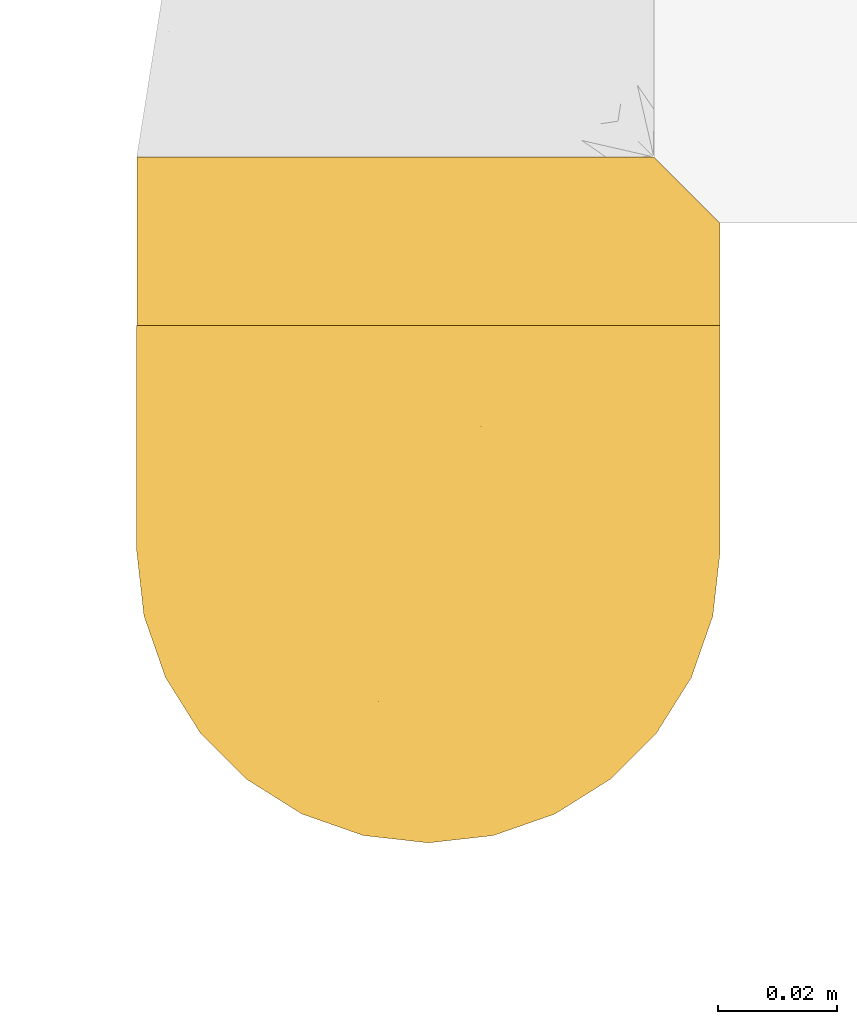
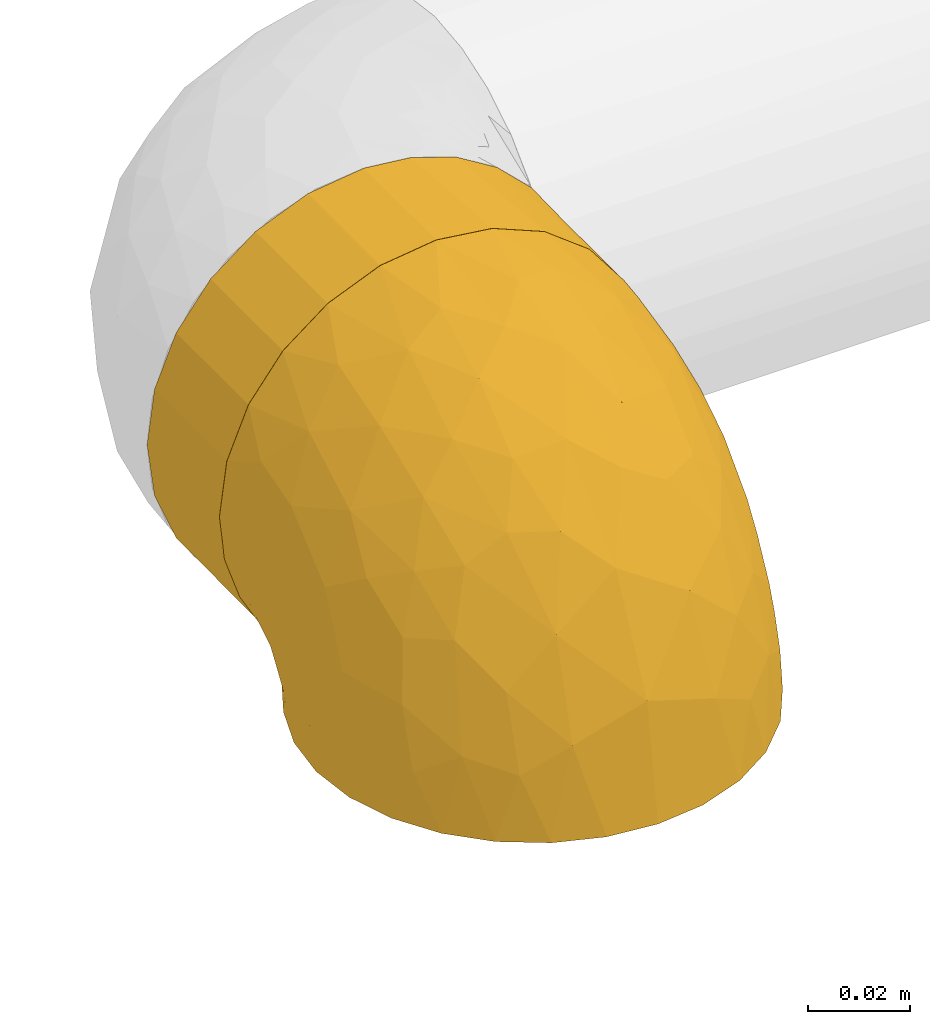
# One storey, part 2 of 6: 2 coverings.
"""IFC2X3 building model written with IfcOpenShell, lengths in millimetres."""

from ifc_helpers import new_model, entity, si_unit, converted_unit, derived_unit, direction, frame, origin, place, context, subcontext, project, spatial, faceted_brep, material, element, save


model = new_model("IFC2X3")

# Units and contexts
model_context = context("Model", 3, precision=0.01, world=origin(), true_north=direction((6.123031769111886e-17, 1.0)))
body_context = subcontext(model_context, "Body", "Model", "MODEL_VIEW")
ifc_project = project(units=[si_unit("LENGTHUNIT", "METRE", prefix="MILLI"), si_unit("AREAUNIT", "SQUARE_METRE"), si_unit("VOLUMEUNIT", "CUBIC_METRE"), converted_unit("PLANEANGLEUNIT", "DEGREE", entity("IfcRatioMeasure", 0.017453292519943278), si_unit("PLANEANGLEUNIT", "RADIAN"), dimensions=[0, 0, 0, 0, 0, 0, 0]), si_unit("MASSUNIT", "GRAM", prefix="KILO"), derived_unit("MASSDENSITYUNIT", [(si_unit("MASSUNIT", "GRAM", prefix="KILO"), 1), (si_unit("LENGTHUNIT", "METRE"), -3)]), derived_unit("IONCONCENTRATIONUNIT", [(si_unit("MASSUNIT", "GRAM", prefix="KILO"), 1), (si_unit("LENGTHUNIT", "METRE"), -3)]), derived_unit("MOMENTOFINERTIAUNIT", [(si_unit("LENGTHUNIT", "METRE"), 4)]), si_unit("TIMEUNIT", "SECOND"), si_unit("FREQUENCYUNIT", "HERTZ"), si_unit("THERMODYNAMICTEMPERATUREUNIT", "DEGREE_CELSIUS"), derived_unit("THERMALTRANSMITTANCEUNIT", [(si_unit("MASSUNIT", "GRAM", prefix="KILO"), 1), (si_unit("THERMODYNAMICTEMPERATUREUNIT", "KELVIN"), -1), (si_unit("TIMEUNIT", "SECOND"), -3)]), derived_unit("THERMALCONDUCTANCEUNIT", [(si_unit("MASSUNIT", "GRAM", prefix="KILO"), 1), (si_unit("THERMODYNAMICTEMPERATUREUNIT", "KELVIN"), -1), (si_unit("TIMEUNIT", "SECOND"), -3), (si_unit("LENGTHUNIT", "METRE"), 1)]), derived_unit("VOLUMETRICFLOWRATEUNIT", [(si_unit("LENGTHUNIT", "METRE"), 3), (si_unit("TIMEUNIT", "SECOND"), -1)]), derived_unit("MASSFLOWRATEUNIT", [(si_unit("MASSUNIT", "GRAM", prefix="KILO"), 1), (si_unit("TIMEUNIT", "SECOND"), -1)]), derived_unit("ROTATIONALFREQUENCYUNIT", [(si_unit("TIMEUNIT", "SECOND"), -1)]), si_unit("ELECTRICCURRENTUNIT", "AMPERE"), si_unit("ELECTRICVOLTAGEUNIT", "VOLT"), si_unit("POWERUNIT", "WATT"), si_unit("FORCEUNIT", "NEWTON", prefix="KILO"), si_unit("ILLUMINANCEUNIT", "LUX"), si_unit("LUMINOUSFLUXUNIT", "LUMEN"), si_unit("LUMINOUSINTENSITYUNIT", "CANDELA"), derived_unit("USERDEFINED", [(si_unit("MASSUNIT", "GRAM", prefix="KILO"), -1), (si_unit("LENGTHUNIT", "METRE"), -2), (si_unit("TIMEUNIT", "SECOND"), 3), (si_unit("LUMINOUSFLUXUNIT", "LUMEN"), 1)]), derived_unit("USERDEFINED", [(si_unit("MASSUNIT", "GRAM", prefix="KILO"), 1), (si_unit("TIMEUNIT", "SECOND"), -3), (si_unit("LENGTHUNIT", "METRE"), 3), (si_unit("ELECTRICCURRENTUNIT", "AMPERE"), -2)]), derived_unit("SOUNDPOWERUNIT", [(si_unit("MASSUNIT", "GRAM", prefix="KILO"), 1), (si_unit("TIMEUNIT", "SECOND"), -3), (si_unit("LENGTHUNIT", "METRE"), 2)]), derived_unit("SOUNDPRESSUREUNIT", [(si_unit("MASSUNIT", "GRAM", prefix="KILO"), 1), (si_unit("LENGTHUNIT", "METRE"), -1), (si_unit("TIMEUNIT", "SECOND"), -2)]), derived_unit("LINEARVELOCITYUNIT", [(si_unit("LENGTHUNIT", "METRE"), 1), (si_unit("TIMEUNIT", "SECOND"), -1)]), si_unit("PRESSUREUNIT", "PASCAL"), derived_unit("USERDEFINED", [(si_unit("MASSUNIT", "GRAM", prefix="KILO"), 1), (si_unit("LENGTHUNIT", "METRE"), -2), (si_unit("TIMEUNIT", "SECOND"), -2)]), derived_unit("LINEARFORCEUNIT", [(si_unit("MASSUNIT", "GRAM", prefix="KILO"), 1), (si_unit("TIMEUNIT", "SECOND"), -2)]), derived_unit("PLANARFORCEUNIT", [(si_unit("MASSUNIT", "GRAM", prefix="KILO"), 1), (si_unit("LENGTHUNIT", "METRE"), -1), (si_unit("TIMEUNIT", "SECOND"), -2)]), derived_unit("SPECIFICHEATCAPACITYUNIT", [(si_unit("THERMODYNAMICTEMPERATUREUNIT", "KELVIN"), -1), (si_unit("LENGTHUNIT", "METRE"), 2), (si_unit("TIMEUNIT", "SECOND"), -2)]), derived_unit("HEATINGVALUEUNIT", [(si_unit("LENGTHUNIT", "METRE"), 2), (si_unit("TIMEUNIT", "SECOND"), -2)]), derived_unit("VAPORPERMEABILITYUNIT", [(si_unit("LENGTHUNIT", "METRE"), -1), (si_unit("TIMEUNIT", "SECOND"), 1)]), derived_unit("DYNAMICVISCOSITYUNIT", [(si_unit("MASSUNIT", "GRAM", prefix="KILO"), 1), (si_unit("TIMEUNIT", "SECOND"), -1), (si_unit("LENGTHUNIT", "METRE"), -1)]), derived_unit("THERMALEXPANSIONCOEFFICIENTUNIT", [(si_unit("THERMODYNAMICTEMPERATUREUNIT", "KELVIN"), -1)]), derived_unit("MODULUSOFELASTICITYUNIT", [(si_unit("MASSUNIT", "GRAM", prefix="KILO"), 1), (si_unit("LENGTHUNIT", "METRE"), -1), (si_unit("TIMEUNIT", "SECOND"), -2)]), derived_unit("ISOTHERMALMOISTURECAPACITYUNIT", [(si_unit("LENGTHUNIT", "METRE"), 3), (si_unit("MASSUNIT", "GRAM", prefix="KILO"), -1)]), derived_unit("MOISTUREDIFFUSIVITYUNIT", [(si_unit("TIMEUNIT", "SECOND"), -1), (si_unit("LENGTHUNIT", "METRE"), 2)])], contexts=[model_context])

# Site, building, storey
site_placement = place(None, origin())
site = spatial("IfcSite", under=ifc_project, at=site_placement, Name="Default", CompositionType="ELEMENT")
building_placement = place(site_placement, origin())
building = spatial("IfcBuilding", under=site, at=building_placement, CompositionType="ELEMENT")
storey_placement = place(building_placement, frame((0.0, 0.0, 3000.0)))
storey = spatial("IfcBuildingStorey", under=building, at=storey_placement, Name="Niveau 1", CompositionType="ELEMENT", Elevation=3000.0)

# Coverings
ifc_material = material(Name="Isolation - Laine minérale")
covering_1_placement = place(storey_placement, frame((-10422.871137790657, 9958.875273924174, 0.7252722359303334)))
element("IfcCovering", 1, at=covering_1_placement, inside=storey, material=ifc_material, Name="Isolation des canalisations:Laine minérale", ObjectType="Isolation des canalisations:Laine minérale", PredefinedType="INSULATION", context=body_context, shape_type="Brep", body=[
    faceted_brep([(6.323164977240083, 1.5952722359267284, -71.75405657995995), (12.012544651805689, 1.595272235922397, -80.9755883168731), (19.584352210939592, 1.5952722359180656, -88.72527223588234), (81.86619226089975, 1.595272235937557, -88.72527223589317), (89.43799982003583, 1.5952722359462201, -80.97558831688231), (95.12737949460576, 1.595272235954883, -71.75405657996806), (98.65694811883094, 1.5952722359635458, -61.510046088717), (99.85527223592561, 1.595272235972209, -50.72527223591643), (98.18120808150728, 1.5952722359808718, -38.00949255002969), (93.27310032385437, 1.5952722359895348, -26.160272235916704), (85.46542839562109, 1.5952722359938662, -15.985116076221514), (75.29027223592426, 1.5952722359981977, -8.17744414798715), (63.44105192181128, 1.5952722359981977, -3.269336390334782), (50.72527223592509, 1.5952722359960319, -1.5952722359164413), (38.0094925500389, 1.5952722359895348, -3.269336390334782), (26.16027223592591, 1.5952722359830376, -8.17744414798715), (15.985116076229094, 1.5952722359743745, -15.985116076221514), (8.177444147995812, 1.5952722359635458, -26.160272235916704), (3.2693363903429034, 1.5952722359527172, -38.00949255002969), (1.5952722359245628, 1.5952722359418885, -50.72527223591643), (2.793596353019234, 1.5952722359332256, -61.51004608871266), (61.51004608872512, 29.97035065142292, -98.65694811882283), (50.72527223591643, 29.970350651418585, -99.85527223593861), (38.00949255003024, 29.97035065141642, -98.18120808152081), (26.160272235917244, 29.97035065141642, -93.27310032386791), (15.98511607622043, 29.970350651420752, -85.46542839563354), (8.17744414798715, 29.970350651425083, -75.29027223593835), (3.26933639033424, 29.970350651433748, -63.441051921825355), (1.5952722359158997, 29.97035065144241, -50.725272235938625), (3.26933639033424, 29.970350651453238, -38.009492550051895), (8.17744414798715, 29.970350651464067, -26.1602722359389), (15.98511607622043, 29.970350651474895, -15.985116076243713), (26.160272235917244, 29.970350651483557, -8.177444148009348), (38.00949255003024, 29.970350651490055, -3.2693363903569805), (50.72527223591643, 29.970350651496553, -1.59527223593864), (61.51004608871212, 29.97035065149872, -2.7935963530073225), (71.75405657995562, 29.97035065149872, -6.323164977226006), (80.97558831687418, 29.970350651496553, -12.01254465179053), (88.72527223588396, 29.970350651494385, -19.584352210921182), (88.72527223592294, 29.970350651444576, -81.8661922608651), (80.97558831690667, 29.97035065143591, -89.43799982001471), (71.75405657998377, 29.970350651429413, -95.12737949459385), (34.19020495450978, 9.859172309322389, -96.98917230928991), (42.33445912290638, 12.00344463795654, -99.13344463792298), (50.725272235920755, 12.725272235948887, -99.85527223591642), (26.531823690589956, 6.3554633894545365, -93.48546338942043), (59.11608534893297, 12.003444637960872, -99.13344463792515), (67.26033951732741, 9.859172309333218, -96.98917230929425), (74.91872078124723, 6.355463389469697, -93.48546338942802), (93.48546338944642, 25.210159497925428, -74.91872078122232), (96.98917230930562, 21.706450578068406, -67.2603395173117), (99.13344463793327, 19.56217824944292, -59.11608534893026), (99.85527223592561, 18.840350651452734, -50.725272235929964), (99.13344463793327, 19.562178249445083, -42.33445912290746), (96.98917230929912, 21.706450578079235, -34.19020495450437), (93.48546338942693, 25.210159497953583, -26.53182369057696)], [[[0, 1, 2, 3, 4, 5, 6, 7, 8, 9, 10, 11, 12, 13, 14, 15, 16, 17, 18, 19, 20]], [[21, 22, 23, 24, 25, 26, 27, 28, 29, 30, 31, 32, 33, 34, 35, 36, 37, 38, 39, 40, 41]], [[20, 28, 27]], [[27, 26, 0]], [[25, 1, 26]], [[19, 28, 20]], [[0, 20, 27]], [[1, 0, 26]], [[25, 2, 1]], [[42, 24, 23]], [[23, 22, 43]], [[44, 43, 22]], [[2, 25, 45]], [[43, 42, 23]], [[45, 24, 42]], [[45, 25, 24]], [[46, 22, 21]], [[21, 41, 47]], [[40, 48, 41]], [[46, 44, 22]], [[48, 47, 41]], [[3, 48, 40]], [[46, 21, 47]], [[40, 39, 3]], [[39, 49, 4]], [[50, 51, 6]], [[49, 50, 5]], [[4, 49, 5]], [[51, 7, 6]], [[6, 5, 50]], [[7, 51, 52]], [[39, 4, 3]], [[53, 54, 8]], [[9, 55, 10]], [[54, 55, 9]], [[52, 53, 7]], [[7, 53, 8]], [[54, 9, 8]], [[55, 38, 10]], [[11, 37, 36]], [[36, 35, 12]], [[34, 13, 35]], [[10, 37, 11]], [[12, 11, 36]], [[13, 12, 35]], [[37, 10, 38]], [[13, 34, 33, 14]], [[14, 33, 32, 15]], [[15, 32, 31, 16]], [[17, 30, 29, 18]], [[18, 29, 28, 19]], [[16, 31, 30, 17]], [[45, 42, 43, 44, 46, 47, 48, 3, 2]], [[38, 55, 54, 53, 52, 51, 50, 49, 39]]]),
])
covering_2_placement = place(storey_placement, frame((-10422.891137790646, 9871.72527392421, -89.59527223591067)))
element("IfcCovering", 2, at=covering_2_placement, inside=storey, material=ifc_material, Name="Isolation des canalisations:Laine minérale", ObjectType="Isolation des canalisations:Laine minérale", PredefinedType="INSULATION", context=body_context, shape_type="Brep", body=[
    faceted_brep([(95.02415814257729, 29.412134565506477, 1.5952722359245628), (89.1663101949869, 20.093252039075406, 1.5952722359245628), (81.38263886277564, 12.31254833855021, 1.5952722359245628), (72.06354573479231, 6.459227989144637, 1.5952722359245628), (61.67593083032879, 2.8261403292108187, 1.5952722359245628), (50.74527223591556, 1.5952722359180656, 1.5952722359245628), (39.80290363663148, 2.8288129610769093, 1.5952722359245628), (29.412134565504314, 6.4663863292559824, 1.5952722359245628), (20.093252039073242, 12.324234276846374, 1.5952722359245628), (12.312548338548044, 20.10790560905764, 1.5952722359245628), (6.459227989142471, 29.42699873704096, 1.5952722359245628), (2.826140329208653, 39.81461364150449, 1.5952722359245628), (1.5952722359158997, 50.74527223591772, 1.5952722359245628), (2.765001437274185, 61.404358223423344, 1.5952722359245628), (6.216868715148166, 71.55257335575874, 1.5952722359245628), (11.785042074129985, 80.70896636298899, 1.5952722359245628), (19.19437336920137, 88.43165280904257, 1.5952722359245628), (21.638642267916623, 88.43165280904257, 1.5952722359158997), (23.415694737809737, 88.43165280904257, 1.5952722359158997), (25.192747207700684, 88.43165280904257, 1.5952722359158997), (26.692340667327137, 88.43165280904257, 1.5952722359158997), (28.191934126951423, 88.43165280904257, 1.5952722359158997), (31.191121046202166, 88.43165280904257, 1.5952722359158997), (34.19030796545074, 88.43165280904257, 1.5952722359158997), (37.18949488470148, 88.43165280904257, 1.5952722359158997), (40.18868180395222, 88.43165280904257, 1.5952722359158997), (41.68827526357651, 88.43165280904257, 1.5952722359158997), (43.18786872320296, 88.43165280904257, 1.5952722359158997), (45.63213762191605, 88.43165280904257, 1.5952722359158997), (48.07640652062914, 88.43165280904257, 1.5952722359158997), (50.5206754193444, 88.43165280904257, 1.5952722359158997), (52.96494431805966, 88.43165280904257, 1.5952722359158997), (55.40921321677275, 88.43165280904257, 1.5952722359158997), (57.85348211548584, 88.43165280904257, 1.5952722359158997), (60.2977510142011, 88.43165280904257, 1.5952722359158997), (62.742019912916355, 88.43165280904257, 1.5952722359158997), (65.18628881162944, 88.43165280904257, 1.5952722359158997), (67.6305577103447, 88.43165280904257, 1.5952722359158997), (70.0748266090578, 88.43165280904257, 1.5952722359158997), (72.51909550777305, 88.43165280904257, 1.5952722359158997), (74.96336440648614, 88.43165280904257, 1.5952722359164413), (77.4076333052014, 88.43165280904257, 1.5952722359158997), (79.85190220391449, 88.43165280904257, 1.5952722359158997), (82.29617110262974, 88.43165280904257, 1.5952722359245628), (89.71827412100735, 80.69235262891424, 1.5952722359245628), (95.28368576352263, 71.53113811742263, 1.5952722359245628), (98.73008326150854, 61.383900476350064, 1.5952722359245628), (99.89527223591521, 50.74527223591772, 1.5952722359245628), (98.66173151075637, 39.802903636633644, 1.5952722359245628), (11.777056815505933, 88.74527223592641, 9.641963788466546), (6.211862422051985, 88.74527223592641, 18.798688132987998), (2.7632985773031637, 88.74527223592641, 28.94385431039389), (1.5952722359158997, 88.74527223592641, 39.59527223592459), (3.270017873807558, 88.74527223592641, 52.31622830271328), (8.18012363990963, 88.74527223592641, 64.17027223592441), (15.990973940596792, 88.74527223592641, 74.34957053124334), (26.170272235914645, 88.74527223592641, 82.16042083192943), (38.02431616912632, 88.74527223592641, 87.07052659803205), (50.74527223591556, 88.74527223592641, 88.74527223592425), (63.46622830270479, 88.74527223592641, 87.07052659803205), (75.3202722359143, 88.74527223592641, 82.16042083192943), (85.49957053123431, 88.74527223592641, 74.34957053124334), (93.31042083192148, 88.74527223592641, 64.17027223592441), (98.22052659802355, 88.74527223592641, 52.31622830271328), (99.89527223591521, 88.74527223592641, 39.59527223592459), (98.72724589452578, 88.74527223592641, 28.94385431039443), (95.27868204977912, 88.74527223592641, 18.798688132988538), (89.71348765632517, 88.74527223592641, 9.641963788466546), (82.29617110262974, 88.74527223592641, 1.9088916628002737), (79.85190220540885, 88.74527223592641, 1.9088916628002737), (78.3523087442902, 88.74527223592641, 1.9088916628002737), (76.38037756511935, 88.74527223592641, 1.9088916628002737), (74.40844638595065, 88.74527223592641, 1.9088916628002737), (72.43651520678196, 88.74527223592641, 1.9088916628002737), (70.46458402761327, 88.74527223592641, 1.9088916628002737), (68.49265284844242, 88.74527223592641, 1.9088916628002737), (66.52072166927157, 88.74527223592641, 1.9088916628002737), (64.54879049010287, 88.74527223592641, 1.9088916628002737), (62.57685931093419, 88.74527223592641, 1.9088916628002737), (60.60492813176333, 88.74527223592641, 1.9088916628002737), (58.632996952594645, 88.74527223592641, 1.9088916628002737), (56.661065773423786, 88.74527223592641, 1.9088916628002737), (54.6891345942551, 88.74527223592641, 1.9088916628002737), (52.71720341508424, 88.74527223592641, 1.9088916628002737), (50.74527223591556, 88.74527223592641, 1.9088916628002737), (48.7733410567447, 88.74527223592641, 1.908891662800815), (46.80140987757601, 88.74527223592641, 1.908891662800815), (44.82947869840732, 88.74527223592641, 1.9088916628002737), (42.85754751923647, 88.74527223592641, 1.9088916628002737), (40.88561634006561, 88.74527223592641, 1.9088916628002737), (38.913685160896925, 88.74527223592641, 1.9088916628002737), (36.94175398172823, 88.74527223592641, 1.9088916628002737), (34.96982280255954, 88.74527223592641, 1.9088916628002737), (31.97063588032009, 88.74527223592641, 1.9088916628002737), (28.971448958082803, 88.74527223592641, 1.9088916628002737), (26.5271800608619, 88.74527223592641, 1.9088916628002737), (24.082911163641, 88.74527223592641, 1.9088916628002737), (21.638642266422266, 88.74527223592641, 1.9088916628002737), (19.19437336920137, 88.74527223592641, 1.908891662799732), (53.75333970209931, 88.53090125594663, 1.8241875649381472), (51.832765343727, 88.52210831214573, 1.8156242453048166), (61.47290163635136, 88.52122178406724, 1.8147227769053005), (63.562825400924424, 88.52777998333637, 1.821224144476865), (48.00102702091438, 88.54092532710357, 1.8331787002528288), (77.2499939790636, 88.53506454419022, 1.828016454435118), (80.69913834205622, 88.49130573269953, 1.7792781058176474), (42.43807145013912, 88.51810292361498, 1.8114926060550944), (22.860776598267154, 88.52350981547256, 1.8170346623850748), (24.70021643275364, 88.52548149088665, 1.8189889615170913), (71.3700895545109, 88.51653277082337, 1.809830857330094), (73.40383885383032, 88.52674320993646, 1.820221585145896), (44.410002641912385, 88.50469006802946, 1.796462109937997), (37.92771907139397, 88.52964682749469, 1.8230063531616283), (39.81308540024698, 88.53317608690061, 1.8262968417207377), (35.95578792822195, 88.51585328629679, 1.8091041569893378), (49.75930651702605, 88.52914218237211, 1.8225274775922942), (21.02757498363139, 88.52591800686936, 1.8194169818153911), (55.67510065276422, 88.53664906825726, 1.8294378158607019), (67.50668767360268, 88.53747885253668, 1.8301744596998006), (65.61454699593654, 88.53273195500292, 1.8258883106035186), (34.104580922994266, 88.53426299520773, 1.8272900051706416), (57.55217518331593, 88.53370000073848, 1.8267767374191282), (79.10210557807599, 88.52350981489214, 1.8170346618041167), (75.39441218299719, 88.53493173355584, 1.8278964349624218), (82.29617110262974, 88.52350981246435, 1.8170346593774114), (82.29617110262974, 88.4948797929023, 1.747915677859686), (82.29617110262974, 88.46624977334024, 1.6787966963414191), (19.19437336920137, 88.52350981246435, 1.8170346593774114), (19.19437336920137, 88.59262879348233, 1.8456646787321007), (19.19437336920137, 88.66174777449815, 1.8742946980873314), (32.212157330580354, 88.5100064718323, 1.8026539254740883), (69.4355922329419, 88.53042484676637, 1.823740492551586), (46.248287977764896, 88.52246762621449, 1.81598755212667), (59.49061335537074, 88.52470424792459, 1.8182226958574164), (29.41925201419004, 88.50579329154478, 1.7977740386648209), (27.44213716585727, 88.5274414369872, 1.820897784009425), (82.29617110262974, 88.66174777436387, 1.8742946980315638), (82.29617110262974, 88.5926287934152, 1.845664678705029), (19.19437336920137, 88.46624977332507, 1.6787966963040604), (19.19437336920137, 88.49487979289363, 1.7479156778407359), (4.210283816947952, 85.22080157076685, 23.495219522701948), (8.744179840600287, 85.93611072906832, 13.747756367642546), (4.210283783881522, 81.07807843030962, 22.409779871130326), (9.955583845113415, 83.13289242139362, 10.562522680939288), (1.5952722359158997, 79.24527223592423, 37.049754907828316), (1.5952722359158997, 81.28890223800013, 37.59734391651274), (1.5952722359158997, 55.83630689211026, 20.595272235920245), (2.93549782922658, 66.39553001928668, 16.020149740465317), (4.213452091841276, 67.9404040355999, 9.261677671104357), (1.5952722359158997, 69.74527223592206, 34.50423757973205), (9.405305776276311, 80.67378389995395, 9.667897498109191), (9.963487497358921, 79.78892094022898, 7.202912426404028), (2.9356418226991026, 74.32109358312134, 23.94474674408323), (4.213452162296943, 66.85470593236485, 5.119390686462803), (8.750654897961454, 76.603363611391, 4.402893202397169), (5.690627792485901, 79.64911936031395, 17.541506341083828), (1.5952722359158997, 52.743200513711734, 9.051642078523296), (1.5952722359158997, 53.29078956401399, 11.095272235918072), (4.482619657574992, 73.61168493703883, 16.72885944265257), (1.5952722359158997, 62.790789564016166, 27.549754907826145), (5.766057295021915, 73.87988529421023, 12.071559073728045), (2.6117250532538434, 75.32913676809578, 47.62395095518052), (2.657531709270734, 65.9107418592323, 44.00144112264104), (11.131578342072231, 53.84761415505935, 58.899698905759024), (20.824647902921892, 59.13651173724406, 72.66771487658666), (11.7519547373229, 71.16612245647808, 67.20155656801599), (5.336592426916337, 67.0054527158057, 54.07984229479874), (5.33659286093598, 78.8805128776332, 57.54110754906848), (50.74527223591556, 37.51978749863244, 72.10110329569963), (50.74527223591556, 61.81444117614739, 84.4798476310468), (40.339739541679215, 53.875201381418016, 80.24801351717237), (9.12424327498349, 25.784943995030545, 13.851436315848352), (4.351045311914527, 36.24418276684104, 15.165285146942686), (32.64695426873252, 29.562882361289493, 60.77765845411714), (23.768909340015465, 30.770681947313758, 55.385836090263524), (35.61531809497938, 15.292222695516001, 43.89737524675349), (41.696133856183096, 71.31385843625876, 86.12648113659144), (30.50981773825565, 47.24102741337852, 73.23168363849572), (21.748430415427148, 43.50389303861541, 64.7473857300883), (20.824647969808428, 75.28985257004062, 77.40373146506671), (31.9363827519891, 67.10273039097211, 82.14716981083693), (15.984346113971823, 37.09920094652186, 52.82911549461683), (9.509703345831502, 44.51517687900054, 48.878965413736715), (11.405769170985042, 33.70477633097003, 40.607220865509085), (3.723532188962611, 44.05169469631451, 28.76995319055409), (9.124242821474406, 30.044081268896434, 27.448445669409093), (15.984347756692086, 18.312338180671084, 19.800365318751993), (50.74527223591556, 5.8606968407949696, 28.52610329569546), (34.50535109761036, 7.041406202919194, 22.71562192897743), (18.53593481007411, 25.61446965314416, 42.31748570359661), (24.588194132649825, 15.886915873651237, 33.6838277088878), (24.58819389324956, 10.600409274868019, 16.806973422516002), (39.07585882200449, 38.50378416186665, 71.0785805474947), (42.346184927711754, 25.345180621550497, 60.332491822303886), (2.563252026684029, 53.163504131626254, 33.37332146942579), (50.74527223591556, 18.239441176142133, 52.82075697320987), (4.72244931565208, 52.69469876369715, 43.46542968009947), (69.55416102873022, 58.17589226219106, 79.2001746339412), (59.5851078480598, 71.70091272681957, 86.24488809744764), (59.865425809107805, 54.57433327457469, 80.83807017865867), (66.13789702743, 42.49805076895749, 72.52816019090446), (69.55416221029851, 75.06235489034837, 83.87397883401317), (85.49332197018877, 24.5251412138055, 35.798660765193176), (78.98858976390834, 25.786342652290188, 48.02046276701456), (76.88743080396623, 15.878231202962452, 33.68736739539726), (85.49294527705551, 37.08979212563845, 52.83844921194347), (78.28666517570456, 35.71336208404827, 59.75598123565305), (97.13479117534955, 36.23150879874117, 15.170016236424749), (98.95303587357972, 70.53804152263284, 45.55141709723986), (99.89527223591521, 69.74527223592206, 34.50423757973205), (99.89527223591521, 79.24527223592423, 37.049754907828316), (66.97173870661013, 7.0362994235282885, 22.71467774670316), (80.665896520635, 69.24086116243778, 76.07714087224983), (92.35692696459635, 30.03051209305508, 27.45465165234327), (92.35692651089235, 25.770245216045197, 13.854008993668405), (89.73858944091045, 76.87540408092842, 68.47065883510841), (96.15395178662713, 74.00473445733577, 56.45843349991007), (79.62483877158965, 48.41047025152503, 68.08854506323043), (89.7385902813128, 62.62553049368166, 64.29272071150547), (59.508159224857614, 31.220776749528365, 66.01125638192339), (68.83452868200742, 29.560345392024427, 60.78019542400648), (99.01263503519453, 79.82666983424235, 48.01911236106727), (76.88743104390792, 10.591274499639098, 16.809109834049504), (65.85652255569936, 15.287247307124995, 43.900853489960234), (85.49294363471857, 18.299506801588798, 19.803681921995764), (97.76388503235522, 44.04987097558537, 28.786726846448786), (99.89527223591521, 55.83630689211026, 20.595272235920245), (98.78930951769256, 54.23536248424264, 35.485066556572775), (99.89527223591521, 62.790789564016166, 27.549754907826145), (99.89527223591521, 52.74320051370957, 9.051642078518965), (99.89527223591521, 53.29078956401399, 11.095272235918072), (91.50386042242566, 48.41211537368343, 53.16291239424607), (96.4268312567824, 64.14304703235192, 52.05308452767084), (93.14991945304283, 40.10640265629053, 41.401037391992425), (99.08337182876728, 62.89073418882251, 40.721221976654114), (86.09107557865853, 47.672778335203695, 60.91677547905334), (96.67816905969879, 55.38955823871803, 45.94061161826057), (97.28026029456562, 81.07807840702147, 22.409778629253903), (95.72662397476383, 78.26566497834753, 16.46425424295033), (98.55465842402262, 74.3207291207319, 23.943292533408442), (97.28026045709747, 85.22080145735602, 23.495218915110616), (92.74636428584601, 85.93611080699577, 13.74775580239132), (91.53641117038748, 83.13257230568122, 10.564867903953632), (90.11275627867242, 82.6819800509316, 7.656624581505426), (97.0051951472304, 73.61706381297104, 16.72348133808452), (91.54965419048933, 79.75777141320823, 7.216517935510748), (97.2842704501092, 67.9184535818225, 9.263185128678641), (97.28427059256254, 66.83334757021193, 5.1195933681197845), (92.75147496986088, 76.58449008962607, 4.405878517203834), (98.55441347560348, 66.39770760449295, 16.01862728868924), (95.80583125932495, 72.7838259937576, 10.692146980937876)], [[[0, 1, 2, 3, 4, 5, 6, 7, 8, 9, 10, 11, 12, 13, 14, 15, 16, 17, 18, 19, 20, 21, 22, 23, 24, 25, 26, 27, 28, 29, 30, 31, 32, 33, 34, 35, 36, 37, 38, 39, 40, 41, 42, 43, 44, 45, 46, 47, 48]], [[49, 50, 51, 52, 53, 54, 55, 56, 57, 58, 59, 60, 61, 62, 63, 64, 65, 66, 67, 68, 69, 70, 71, 72, 73, 74, 75, 76, 77, 78, 79, 80, 81, 82, 83, 84, 85, 86, 87, 88, 89, 90, 91, 92, 93, 94, 95, 96, 97, 98]], [[99, 100, 83]], [[101, 102, 35]], [[85, 103, 86]], [[71, 70, 104]], [[105, 69, 68]], [[27, 26, 106]], [[18, 107, 108]], [[109, 73, 110]], [[28, 27, 111]], [[25, 112, 113]], [[108, 96, 95]], [[114, 92, 91]], [[103, 85, 115]], [[96, 107, 97]], [[107, 17, 116]], [[78, 102, 101]], [[99, 117, 32]], [[76, 118, 119]], [[120, 92, 114]], [[112, 90, 113]], [[88, 111, 106]], [[40, 39, 110]], [[107, 96, 108]], [[32, 117, 121]], [[91, 90, 112]], [[37, 119, 118]], [[84, 115, 85]], [[69, 105, 122]], [[71, 123, 72]], [[105, 124, 125, 126, 43]], [[116, 17, 16]], [[122, 70, 69]], [[41, 122, 42]], [[116, 127, 128, 129, 98]], [[110, 123, 40]], [[42, 122, 105]], [[120, 23, 130]], [[24, 114, 112]], [[114, 24, 23]], [[104, 123, 71]], [[91, 112, 114]], [[104, 122, 41]], [[24, 112, 25]], [[110, 72, 123]], [[36, 119, 37]], [[40, 123, 41]], [[74, 73, 109]], [[131, 75, 74]], [[118, 131, 37]], [[109, 110, 39]], [[109, 39, 38]], [[73, 72, 110]], [[123, 104, 41]], [[122, 104, 70]], [[26, 25, 113]], [[113, 89, 106]], [[87, 86, 132]], [[113, 106, 26]], [[76, 75, 118]], [[132, 111, 87]], [[106, 111, 27]], [[132, 28, 111]], [[87, 111, 88]], [[88, 106, 89]], [[113, 90, 89]], [[131, 118, 75]], [[38, 37, 131]], [[119, 36, 102]], [[131, 109, 38]], [[109, 131, 74]], [[78, 77, 102]], [[77, 119, 102]], [[77, 76, 119]], [[121, 80, 133]], [[36, 35, 102]], [[33, 121, 133]], [[79, 78, 101]], [[34, 101, 35]], [[132, 29, 28]], [[80, 79, 133]], [[29, 103, 115]], [[30, 29, 115]], [[86, 103, 132]], [[100, 115, 84]], [[31, 30, 100]], [[115, 100, 30]], [[32, 31, 99]], [[117, 81, 121]], [[100, 84, 83]], [[99, 82, 117]], [[81, 117, 82]], [[33, 32, 121]], [[82, 99, 83]], [[100, 99, 31]], [[34, 33, 133]], [[121, 81, 80]], [[133, 101, 34]], [[101, 133, 79]], [[134, 94, 93]], [[23, 120, 114]], [[132, 103, 29]], [[120, 93, 92]], [[93, 120, 130]], [[97, 107, 116]], [[108, 20, 19, 18]], [[21, 135, 134]], [[20, 135, 21]], [[134, 135, 94]], [[108, 95, 135]], [[108, 135, 20]], [[135, 95, 94]], [[134, 22, 21]], [[130, 22, 134]], [[42, 105, 43]], [[105, 68, 136, 137, 124]], [[97, 116, 98]], [[116, 16, 138, 139, 127]], [[18, 17, 107]], [[93, 130, 134]], [[22, 130, 23]], [[140, 141, 142]], [[143, 129, 128, 127]], [[51, 144, 145, 52]], [[146, 147, 148]], [[142, 149, 144]], [[150, 127, 151]], [[50, 140, 51]], [[142, 152, 149]], [[51, 140, 144]], [[129, 143, 141]], [[14, 13, 153]], [[148, 151, 154]], [[155, 141, 143]], [[151, 138, 154]], [[14, 153, 154]], [[16, 15, 138]], [[13, 12, 156, 157]], [[152, 155, 158]], [[159, 158, 147]], [[157, 148, 153]], [[14, 154, 15]], [[49, 98, 129]], [[49, 129, 141]], [[141, 50, 49]], [[160, 148, 147]], [[146, 148, 157]], [[138, 15, 154]], [[150, 158, 155]], [[151, 127, 139, 138]], [[141, 140, 50]], [[144, 140, 142]], [[157, 153, 13]], [[154, 153, 148]], [[149, 152, 159]], [[160, 147, 158]], [[147, 146, 159]], [[155, 152, 142]], [[159, 152, 158]], [[127, 150, 143]], [[160, 150, 151]], [[150, 160, 158]], [[148, 160, 151]], [[141, 155, 142]], [[155, 143, 150]], [[156, 12, 11]], [[161, 149, 162]], [[163, 164, 165]], [[166, 167, 161]], [[168, 169, 170]], [[54, 165, 55]], [[171, 172, 10]], [[173, 174, 175]], [[57, 176, 58]], [[173, 177, 178]], [[179, 56, 55]], [[54, 167, 165]], [[170, 180, 177]], [[56, 179, 180]], [[167, 54, 53]], [[181, 182, 183]], [[184, 146, 172]], [[172, 185, 184]], [[186, 185, 171]], [[186, 9, 8]], [[172, 146, 157, 156]], [[172, 11, 10]], [[173, 178, 174]], [[6, 187, 188]], [[189, 186, 190]], [[191, 186, 8]], [[175, 190, 188]], [[168, 192, 193]], [[189, 190, 174]], [[56, 180, 57]], [[8, 7, 191]], [[188, 7, 6]], [[6, 5, 187]], [[190, 191, 188]], [[159, 194, 162]], [[175, 187, 195]], [[177, 180, 164]], [[10, 9, 171]], [[176, 180, 170]], [[156, 11, 172]], [[163, 165, 166]], [[179, 165, 164]], [[53, 52, 145]], [[185, 189, 183]], [[184, 196, 194]], [[188, 191, 7]], [[186, 191, 190]], [[186, 171, 9]], [[172, 171, 185]], [[187, 175, 188]], [[193, 175, 195]], [[196, 163, 166]], [[163, 181, 178]], [[162, 166, 161]], [[184, 185, 183]], [[178, 177, 164]], [[177, 192, 170]], [[177, 173, 192]], [[176, 170, 169]], [[58, 176, 169]], [[57, 180, 176]], [[193, 192, 173]], [[168, 170, 192]], [[175, 193, 173]], [[168, 193, 195]], [[163, 178, 164]], [[184, 194, 146]], [[178, 181, 174]], [[189, 174, 181]], [[175, 174, 190]], [[183, 189, 181]], [[186, 189, 185]], [[182, 181, 163]], [[183, 182, 184]], [[163, 196, 182]], [[184, 182, 196]], [[165, 179, 55]], [[180, 179, 164]], [[161, 53, 145]], [[165, 167, 166]], [[53, 161, 167]], [[161, 145, 144, 149]], [[159, 162, 149]], [[196, 166, 162]], [[162, 194, 196]], [[146, 194, 159]], [[197, 198, 199]], [[58, 169, 198]], [[197, 199, 200]], [[198, 197, 201]], [[202, 203, 204]], [[60, 59, 201]], [[205, 206, 203]], [[0, 48, 207]], [[208, 209, 210]], [[187, 4, 211]], [[201, 212, 60]], [[213, 214, 207]], [[61, 215, 62]], [[62, 215, 216]], [[3, 211, 4]], [[217, 218, 212]], [[219, 220, 200]], [[216, 208, 221]], [[3, 2, 222]], [[62, 216, 63]], [[61, 60, 212]], [[211, 3, 222]], [[5, 4, 187]], [[217, 197, 200]], [[203, 223, 204]], [[2, 1, 224]], [[225, 213, 207]], [[204, 222, 224]], [[1, 0, 214]], [[204, 224, 202]], [[207, 226, 225]], [[227, 226, 228]], [[223, 211, 204]], [[214, 224, 1]], [[202, 224, 213]], [[48, 47, 229]], [[207, 229, 230, 226]], [[211, 223, 187]], [[218, 231, 232]], [[48, 229, 207]], [[205, 233, 231]], [[233, 213, 225]], [[217, 212, 197]], [[215, 212, 218]], [[228, 234, 227]], [[233, 205, 202]], [[208, 234, 209]], [[63, 221, 64]], [[235, 205, 231]], [[207, 214, 0]], [[224, 214, 213]], [[224, 222, 2]], [[211, 222, 204]], [[219, 223, 220]], [[187, 223, 195]], [[227, 233, 225]], [[234, 228, 209]], [[231, 233, 236]], [[221, 208, 210]], [[232, 208, 216]], [[64, 221, 210]], [[216, 221, 63]], [[233, 202, 213]], [[203, 202, 205]], [[205, 235, 206]], [[223, 203, 220]], [[200, 206, 217]], [[220, 203, 206]], [[232, 231, 236]], [[235, 218, 217]], [[212, 215, 61]], [[216, 215, 218]], [[218, 232, 216]], [[234, 232, 236]], [[232, 234, 208]], [[234, 236, 227]], [[233, 227, 236]], [[226, 227, 225]], [[198, 201, 59]], [[212, 201, 197]], [[58, 198, 59]], [[198, 169, 199]], [[169, 168, 199]], [[219, 200, 199]], [[219, 199, 168]], [[200, 220, 206]], [[168, 195, 219]], [[223, 219, 195]], [[218, 235, 231]], [[206, 235, 217]], [[65, 64, 210]], [[209, 237, 210]], [[238, 237, 239]], [[66, 240, 241]], [[242, 136, 241]], [[243, 137, 242]], [[243, 244, 245]], [[65, 240, 66]], [[136, 68, 67]], [[136, 67, 241]], [[246, 226, 230]], [[66, 241, 67]], [[210, 237, 240]], [[45, 247, 46]], [[209, 239, 237]], [[246, 247, 248]], [[46, 247, 230]], [[249, 250, 244]], [[239, 228, 244]], [[226, 246, 249]], [[250, 248, 245]], [[44, 43, 126]], [[237, 242, 241]], [[248, 45, 44]], [[44, 126, 248]], [[46, 230, 229, 47]], [[245, 126, 125]], [[126, 245, 248]], [[243, 124, 137]], [[210, 240, 65]], [[241, 240, 237]], [[248, 247, 45]], [[230, 247, 246]], [[226, 249, 228]], [[238, 239, 244]], [[239, 209, 228]], [[250, 249, 246]], [[228, 249, 244]], [[243, 242, 238]], [[136, 242, 137]], [[124, 243, 125]], [[125, 243, 245]], [[243, 238, 244]], [[237, 238, 242]], [[248, 250, 246]], [[244, 250, 245]]]),
])

save(model, "model.ifc")
